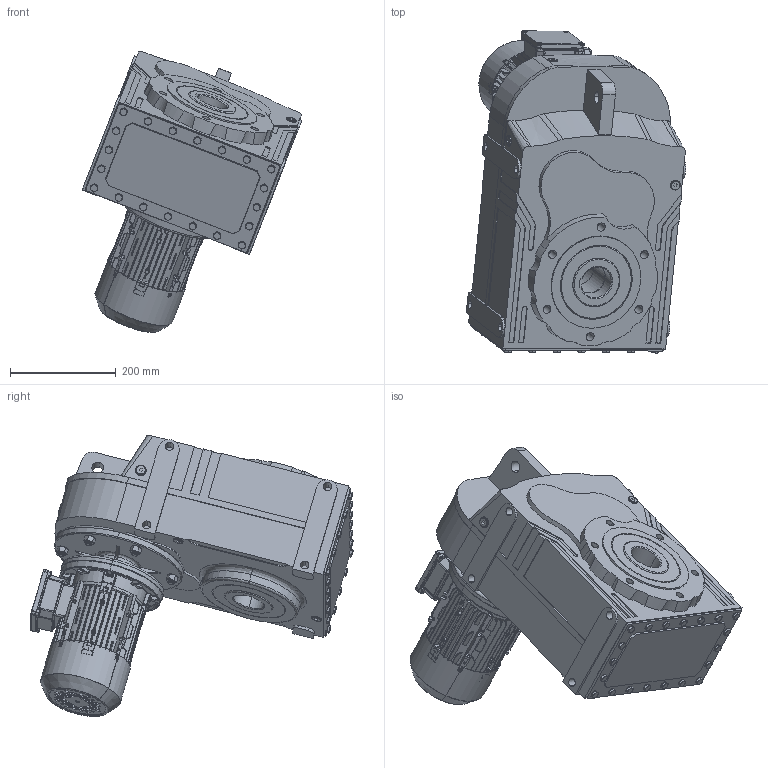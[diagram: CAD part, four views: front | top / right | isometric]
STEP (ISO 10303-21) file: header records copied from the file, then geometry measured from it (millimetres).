
FILE_DESCRIPTION (( 'STEP AP203' ), '1' );
FILE_NAME ('DV_573_0_MX3-80.STEP', '2018-11-15T12:48:41', ( '' ), ( '' ), 'SwSTEP 2.0', 'SolidWorks 2012', '' );
FILE_SCHEMA (( 'CONFIG_CONTROL_DESIGN' ));
Length unit declared in the file: millimetre
Products named in the file (15): DV_573_0_MX3-80; Flansch-80_IMB5; IE 3 80 Plug; IE3 80 Cable glands; MX3-80_B5; IE3 80 terminal box cover; IE3 80 Teriminal box base; IE3 80 Gasket for T-box(base); IE3 80 Casing; IE3 80 Fan cover; IE3 80 Shield; IE3 80 Shaft; ML59A_Varsayìlan; D573_Varsayìlan; 4380B5_Varsayìlan
Assembly tree (14 placements, depth 3):
  DV_573_0_MX3-80
    D573_Varsayìlan
    4380B5_Varsayìlan
    ML59A_Varsayìlan
    MX3-80_B5
      IE3 80 Casing
      IE3 80 Shield
      IE3 80 Shaft
      IE3 80 Fan cover
      IE3 80 Teriminal box base
      IE3 80 Gasket for T-box(base)
      IE3 80 terminal box cover
      IE3 80 Cable glands
      Flansch-80_IMB5
      IE 3 80 Plug
Bounding box: 415.13 x 609.43 x 531.4 mm (x, y, z)
Volume: 32428116.9 mm3; surface area: 1773183 mm2
Topology: 15 solids, 15 shells, 5419 faces, 13592 edges, 8255 vertices
Faces by surface type: plane 1615, cylinder 1425, bspline 1363, cone 651, torus 253, sphere 112
Entity records: 214618 total; most frequent: CARTESIAN_POINT 95111, ORIENTED_EDGE 26894, DIRECTION 21571, EDGE_CURVE 13447, VERTEX_POINT 8239, AXIS2_PLACEMENT_3D 8179, EDGE_LOOP 5840, FACE_OUTER_BOUND 5419
